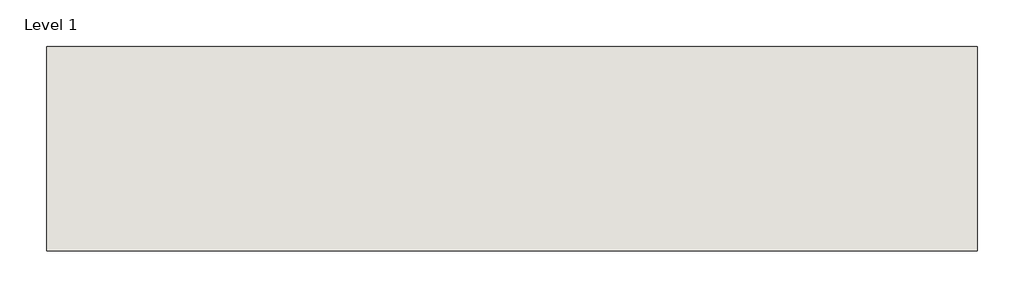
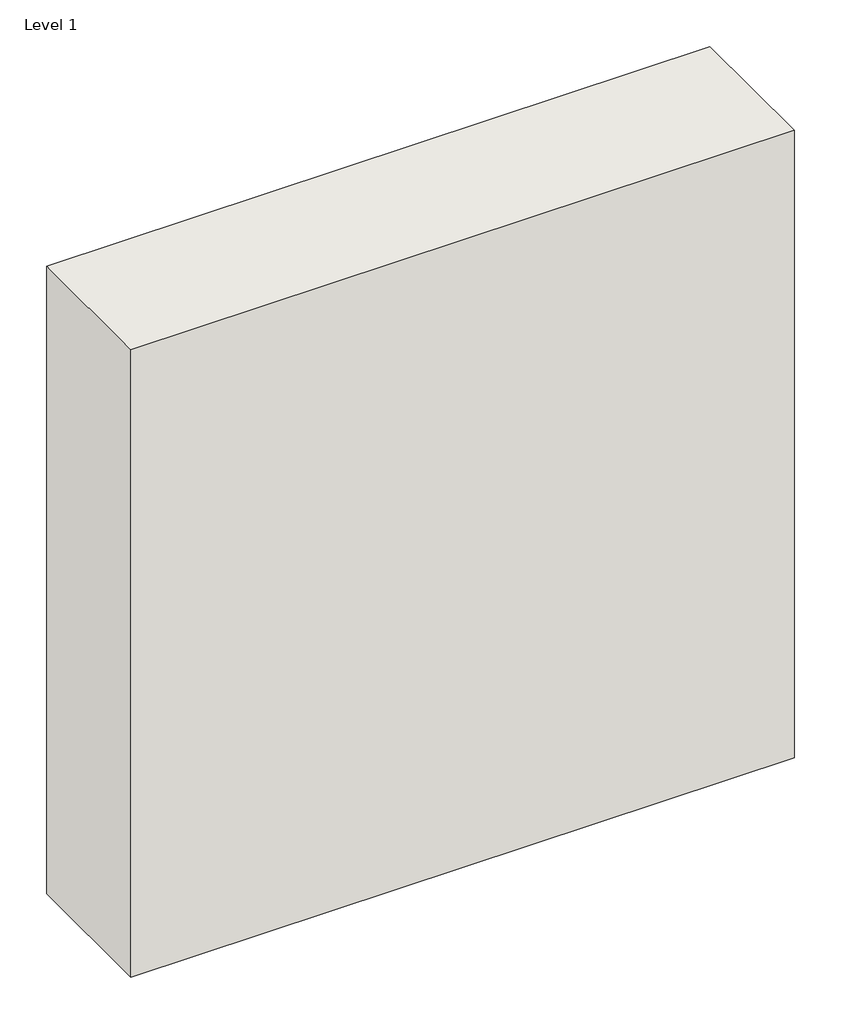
# One storey: 1 wall.
"""IFC4 building model written with IfcOpenShell, lengths in millimetres."""

from ifc_helpers import new_model, si_unit, origin, origin_with_axes, place, context, project, spatial, polyline, outline, extrude, element, save

model = new_model("IFC4")

# Units and contexts
model_context = context("Model", 3, world=origin())
ifc_project = project(units=[si_unit("LENGTHUNIT", "METRE", prefix="MILLI")], contexts=[model_context])

# Site, building, storey
site = spatial("IfcSite", under=ifc_project)
building = spatial("IfcBuilding", under=site)
storey = spatial("IfcBuildingStorey", under=building, Name="Level 1", Elevation=0.0)

# Wall
placement = place(None, origin())
element("IfcWall", 1, ObjectType="GYPTEC-DIVISÓRIA DUPLA 220 BA13A", at=placement, inside=storey, context=model_context, shape_type="SweptSolid", body=[
    extrude(outline(polyline([(1000.0, -50.0), (0.0, -50.0), (0.0, 170.0), (1000.0, 170.0), (1000.0, -50.0)])), origin_with_axes(), (0.0, 0.0, 1.0), 1000.0),
])

save(model, "model.ifc")
